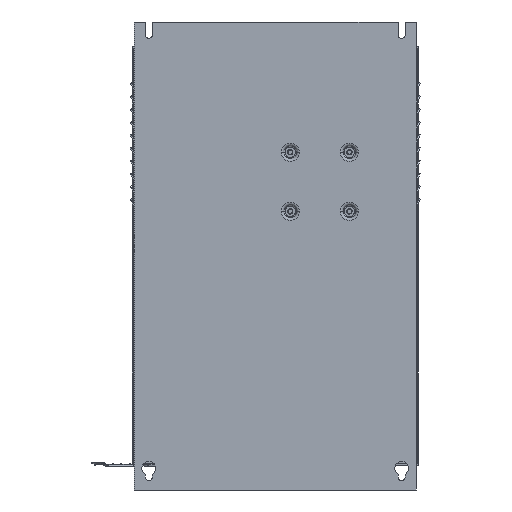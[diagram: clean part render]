
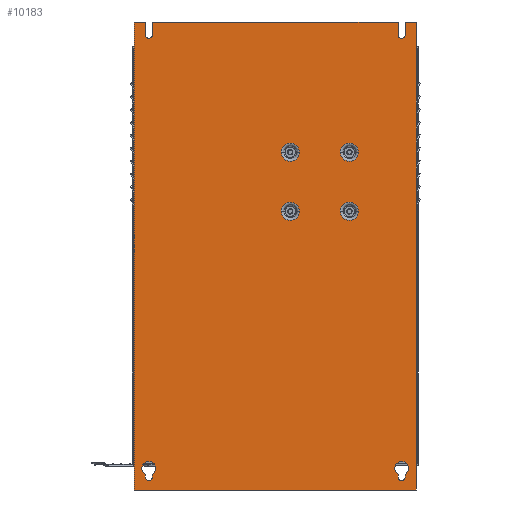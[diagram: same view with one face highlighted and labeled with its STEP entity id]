
A CAD part, front view. The second image highlights one B-rep face of the part: STEP entity #10183.
In plain terms, the highlighted planar face has unit normal (0, -1, 0).
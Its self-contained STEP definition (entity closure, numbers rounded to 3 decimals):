
#2=CARTESIAN_POINT('',(41.5,0.,-14.));
#3=DIRECTION('',(0.,1.,0.));
#4=DIRECTION('',(0.,0.,-1.));
#5=AXIS2_PLACEMENT_3D('',#2,#3,#4);
#7=CARTESIAN_POINT('',(41.5,0.,-14.));
#8=DIRECTION('',(0.,1.,0.));
#9=DIRECTION('',(0.,0.,1.));
#10=AXIS2_PLACEMENT_3D('',#7,#8,#9);
#12=CARTESIAN_POINT('',(96.5,0.,-14.));
#13=DIRECTION('',(0.,1.,0.));
#14=DIRECTION('',(0.,0.,-1.));
#15=AXIS2_PLACEMENT_3D('',#12,#13,#14);
#17=CARTESIAN_POINT('',(96.5,0.,-14.));
#18=DIRECTION('',(0.,1.,0.));
#19=DIRECTION('',(0.,0.,1.));
#20=AXIS2_PLACEMENT_3D('',#17,#18,#19);
#22=CARTESIAN_POINT('',(41.5,0.,-69.));
#23=DIRECTION('',(0.,1.,0.));
#24=DIRECTION('',(0.,0.,-1.));
#25=AXIS2_PLACEMENT_3D('',#22,#23,#24);
#27=CARTESIAN_POINT('',(41.5,0.,-69.));
#28=DIRECTION('',(0.,1.,0.));
#29=DIRECTION('',(0.,0.,1.));
#30=AXIS2_PLACEMENT_3D('',#27,#28,#29);
#32=CARTESIAN_POINT('',(96.5,0.,-69.));
#33=DIRECTION('',(0.,1.,0.));
#34=DIRECTION('',(0.,0.,-1.));
#35=AXIS2_PLACEMENT_3D('',#32,#33,#34);
#37=CARTESIAN_POINT('',(96.5,0.,-69.));
#38=DIRECTION('',(0.,1.,0.));
#39=DIRECTION('',(0.,0.,1.));
#40=AXIS2_PLACEMENT_3D('',#37,#38,#39);
#42=CARTESIAN_POINT('',(-205.5,0.,117.5));
#43=DIRECTION('',(0.,1.,0.));
#44=DIRECTION('',(0.,0.,-1.));
#45=AXIS2_PLACEMENT_3D('',#42,#43,#44);
#47=DIRECTION('',(-1.,0.,0.));
#48=VECTOR('',#47,2.371);
#49=CARTESIAN_POINT('',(-203.129,0.,114.25));
#50=LINE('',#49,#48);
#51=CARTESIAN_POINT('',(-197.5,0.,117.5));
#52=DIRECTION('',(0.,1.,0.));
#53=DIRECTION('',(-0.866,0.,0.5));
#54=AXIS2_PLACEMENT_3D('',#51,#52,#53);
#56=DIRECTION('',(1.,0.,0.));
#57=VECTOR('',#56,2.371);
#58=CARTESIAN_POINT('',(-205.5,0.,120.75));
#59=LINE('',#58,#57);
#60=DIRECTION('',(-1.,0.,0.));
#61=VECTOR('',#60,12.);
#62=CARTESIAN_POINT('',(217.5,0.,114.25));
#63=LINE('',#62,#61);
#64=DIRECTION('',(0.,0.,-1.));
#65=VECTOR('',#64,228.5);
#66=CARTESIAN_POINT('',(217.5,0.,114.25));
#67=LINE('',#66,#65);
#68=DIRECTION('',(-1.,0.,0.));
#69=VECTOR('',#68,12.);
#70=CARTESIAN_POINT('',(217.5,0.,-114.25));
#71=LINE('',#70,#69);
#72=CARTESIAN_POINT('',(205.5,0.,-117.5));
#73=DIRECTION('',(0.,1.,0.));
#74=DIRECTION('',(0.,0.,-1.));
#75=AXIS2_PLACEMENT_3D('',#72,#73,#74);
#77=DIRECTION('',(-1.,0.,0.));
#78=VECTOR('',#77,12.);
#79=CARTESIAN_POINT('',(217.5,0.,-120.75));
#80=LINE('',#79,#78);
#81=DIRECTION('',(0.,0.,-1.));
#82=VECTOR('',#81,10.25);
#83=CARTESIAN_POINT('',(217.5,0.,-120.75));
#84=LINE('',#83,#82);
#85=DIRECTION('',(-1.,0.,0.));
#86=VECTOR('',#85,435.);
#87=CARTESIAN_POINT('',(217.5,0.,-131.));
#88=LINE('',#87,#86);
#89=DIRECTION('',(0.,0.,1.));
#90=VECTOR('',#89,262.);
#91=CARTESIAN_POINT('',(-217.5,0.,-131.));
#92=LINE('',#91,#90);
#93=DIRECTION('',(1.,0.,0.));
#94=VECTOR('',#93,435.);
#95=CARTESIAN_POINT('',(-217.5,0.,131.));
#96=LINE('',#95,#94);
#97=DIRECTION('',(0.,0.,-1.));
#98=VECTOR('',#97,10.25);
#99=CARTESIAN_POINT('',(217.5,0.,131.));
#100=LINE('',#99,#98);
#101=DIRECTION('',(-1.,0.,0.));
#102=VECTOR('',#101,12.);
#103=CARTESIAN_POINT('',(217.5,0.,120.75));
#104=LINE('',#103,#102);
#105=CARTESIAN_POINT('',(205.5,0.,117.5));
#106=DIRECTION('',(0.,1.,0.));
#107=DIRECTION('',(0.,0.,-1.));
#108=AXIS2_PLACEMENT_3D('',#105,#106,#107);
#110=DIRECTION('',(1.,0.,0.));
#111=VECTOR('',#110,2.371);
#112=CARTESIAN_POINT('',(-205.5,0.,-114.25));
#113=LINE('',#112,#111);
#114=CARTESIAN_POINT('',(-205.5,0.,-117.5));
#115=DIRECTION('',(0.,1.,0.));
#116=DIRECTION('',(0.,0.,-1.));
#117=AXIS2_PLACEMENT_3D('',#114,#115,#116);
#119=DIRECTION('',(-1.,0.,0.));
#120=VECTOR('',#119,2.371);
#121=CARTESIAN_POINT('',(-203.129,0.,-120.75));
#122=LINE('',#121,#120);
#123=CARTESIAN_POINT('',(-197.5,0.,-117.5));
#124=DIRECTION('',(0.,1.,0.));
#125=DIRECTION('',(-0.866,0.,0.5));
#126=AXIS2_PLACEMENT_3D('',#123,#124,#125);
#7756=CARTESIAN_POINT('',(-217.5,0.,-131.));
#7757=CARTESIAN_POINT('',(-217.5,0.,131.));
#7758=VERTEX_POINT('',#7756);
#7759=VERTEX_POINT('',#7757);
#7760=CARTESIAN_POINT('',(217.5,0.,131.));
#7761=VERTEX_POINT('',#7760);
#7762=CARTESIAN_POINT('',(217.5,0.,-131.));
#7763=VERTEX_POINT('',#7762);
#8052=CARTESIAN_POINT('',(41.5,0.,-22.4));
#8053=CARTESIAN_POINT('',(41.5,0.,-5.6));
#8054=VERTEX_POINT('',#8052);
#8055=VERTEX_POINT('',#8053);
#8068=CARTESIAN_POINT('',(96.5,0.,-22.4));
#8069=CARTESIAN_POINT('',(96.5,0.,-5.6));
#8070=VERTEX_POINT('',#8068);
#8071=VERTEX_POINT('',#8069);
#8084=CARTESIAN_POINT('',(41.5,0.,-77.4));
#8085=CARTESIAN_POINT('',(41.5,0.,-60.6));
#8086=VERTEX_POINT('',#8084);
#8087=VERTEX_POINT('',#8085);
#8100=CARTESIAN_POINT('',(96.5,0.,-77.4));
#8101=CARTESIAN_POINT('',(96.5,0.,-60.6));
#8102=VERTEX_POINT('',#8100);
#8103=VERTEX_POINT('',#8101);
#8484=CARTESIAN_POINT('',(-205.5,0.,114.25));
#8485=CARTESIAN_POINT('',(-205.5,0.,120.75));
#8486=VERTEX_POINT('',#8484);
#8487=VERTEX_POINT('',#8485);
#8488=CARTESIAN_POINT('',(-203.129,0.,120.75));
#8489=VERTEX_POINT('',#8488);
#8490=CARTESIAN_POINT('',(-203.129,0.,114.25));
#8491=VERTEX_POINT('',#8490);
#8492=CARTESIAN_POINT('',(217.5,0.,114.25));
#8493=CARTESIAN_POINT('',(205.5,0.,114.25));
#8494=VERTEX_POINT('',#8492);
#8495=VERTEX_POINT('',#8493);
#8496=CARTESIAN_POINT('',(205.5,0.,120.75));
#8497=VERTEX_POINT('',#8496);
#8498=CARTESIAN_POINT('',(217.5,0.,120.75));
#8499=VERTEX_POINT('',#8498);
#8500=CARTESIAN_POINT('',(-205.5,0.,-114.25));
#8501=CARTESIAN_POINT('',(-203.129,0.,-114.25));
#8502=VERTEX_POINT('',#8500);
#8503=VERTEX_POINT('',#8501);
#8504=CARTESIAN_POINT('',(-203.129,0.,-120.75));
#8505=VERTEX_POINT('',#8504);
#8506=CARTESIAN_POINT('',(-205.5,0.,-120.75));
#8507=VERTEX_POINT('',#8506);
#8508=CARTESIAN_POINT('',(205.5,0.,-120.75));
#8509=CARTESIAN_POINT('',(205.5,0.,-114.25));
#8510=VERTEX_POINT('',#8508);
#8511=VERTEX_POINT('',#8509);
#8512=CARTESIAN_POINT('',(217.5,0.,-114.25));
#8513=VERTEX_POINT('',#8512);
#8514=CARTESIAN_POINT('',(217.5,0.,-120.75));
#8515=VERTEX_POINT('',#8514);
#10108=CARTESIAN_POINT('',(0.,0.,0.));
#10109=DIRECTION('',(0.,1.,0.));
#10110=DIRECTION('',(1.,0.,0.));
#10111=AXIS2_PLACEMENT_3D('',#10108,#10109,#10110);
#10112=PLANE('',#10111);
#10114=ORIENTED_EDGE('',*,*,#10113,.F.);
#10116=ORIENTED_EDGE('',*,*,#10115,.T.);
#10118=ORIENTED_EDGE('',*,*,#10117,.T.);
#10120=ORIENTED_EDGE('',*,*,#10119,.F.);
#10122=ORIENTED_EDGE('',*,*,#10121,.F.);
#10124=ORIENTED_EDGE('',*,*,#10123,.T.);
#10126=ORIENTED_EDGE('',*,*,#10125,.T.);
#10128=ORIENTED_EDGE('',*,*,#10127,.T.);
#10130=ORIENTED_EDGE('',*,*,#10129,.T.);
#10132=ORIENTED_EDGE('',*,*,#10131,.T.);
#10134=ORIENTED_EDGE('',*,*,#10133,.T.);
#10136=ORIENTED_EDGE('',*,*,#10135,.F.);
#10137=EDGE_LOOP('',(#10114,#10116,#10118,#10120,#10122,#10124,#10126,#10128,
#10130,#10132,#10134,#10136));
#10138=FACE_OUTER_BOUND('',#10137,.F.);
#10140=ORIENTED_EDGE('',*,*,#10139,.F.);
#10142=ORIENTED_EDGE('',*,*,#10141,.F.);
#10143=EDGE_LOOP('',(#10140,#10142));
#10144=FACE_BOUND('',#10143,.F.);
#10146=ORIENTED_EDGE('',*,*,#10145,.F.);
#10148=ORIENTED_EDGE('',*,*,#10147,.F.);
#10149=EDGE_LOOP('',(#10146,#10148));
#10150=FACE_BOUND('',#10149,.F.);
#10152=ORIENTED_EDGE('',*,*,#10151,.F.);
#10154=ORIENTED_EDGE('',*,*,#10153,.F.);
#10155=EDGE_LOOP('',(#10152,#10154));
#10156=FACE_BOUND('',#10155,.F.);
#10158=ORIENTED_EDGE('',*,*,#10157,.F.);
#10160=ORIENTED_EDGE('',*,*,#10159,.F.);
#10162=ORIENTED_EDGE('',*,*,#10161,.F.);
#10164=ORIENTED_EDGE('',*,*,#10163,.F.);
#10165=EDGE_LOOP('',(#10158,#10160,#10162,#10164));
#10166=FACE_BOUND('',#10165,.F.);
#10168=ORIENTED_EDGE('',*,*,#10167,.F.);
#10170=ORIENTED_EDGE('',*,*,#10169,.F.);
#10171=EDGE_LOOP('',(#10168,#10170));
#10172=FACE_BOUND('',#10171,.F.);
#10174=ORIENTED_EDGE('',*,*,#10173,.F.);
#10176=ORIENTED_EDGE('',*,*,#10175,.F.);
#10178=ORIENTED_EDGE('',*,*,#10177,.F.);
#10180=ORIENTED_EDGE('',*,*,#10179,.F.);
#10181=EDGE_LOOP('',(#10174,#10176,#10178,#10180));
#10182=FACE_BOUND('',#10181,.F.);
#10183=ADVANCED_FACE('',(#10138,#10144,#10150,#10156,#10166,#10172,#10182),
#10112,.F.);
#6=CIRCLE('',#5,8.4);
#11=CIRCLE('',#10,8.4);
#16=CIRCLE('',#15,8.4);
#21=CIRCLE('',#20,8.4);
#26=CIRCLE('',#25,8.4);
#31=CIRCLE('',#30,8.4);
#36=CIRCLE('',#35,8.4);
#41=CIRCLE('',#40,8.4);
#46=CIRCLE('',#45,3.25);
#55=CIRCLE('',#54,6.5);
#76=CIRCLE('',#75,3.25);
#109=CIRCLE('',#108,3.25);
#118=CIRCLE('',#117,3.25);
#127=CIRCLE('',#126,6.5);
#10113=EDGE_CURVE('',#8494,#8495,#63,.T.);
#10115=EDGE_CURVE('',#8494,#8513,#67,.T.);
#10117=EDGE_CURVE('',#8513,#8511,#71,.T.);
#10119=EDGE_CURVE('',#8510,#8511,#76,.T.);
#10121=EDGE_CURVE('',#8515,#8510,#80,.T.);
#10123=EDGE_CURVE('',#8515,#7763,#84,.T.);
#10125=EDGE_CURVE('',#7763,#7758,#88,.T.);
#10127=EDGE_CURVE('',#7758,#7759,#92,.T.);
#10129=EDGE_CURVE('',#7759,#7761,#96,.T.);
#10131=EDGE_CURVE('',#7761,#8499,#100,.T.);
#10133=EDGE_CURVE('',#8499,#8497,#104,.T.);
#10135=EDGE_CURVE('',#8495,#8497,#109,.T.);
#10139=EDGE_CURVE('',#8070,#8071,#16,.T.);
#10141=EDGE_CURVE('',#8071,#8070,#21,.T.);
#10145=EDGE_CURVE('',#8086,#8087,#26,.T.);
#10147=EDGE_CURVE('',#8087,#8086,#31,.T.);
#10151=EDGE_CURVE('',#8102,#8103,#36,.T.);
#10153=EDGE_CURVE('',#8103,#8102,#41,.T.);
#10157=EDGE_CURVE('',#8486,#8487,#46,.T.);
#10159=EDGE_CURVE('',#8491,#8486,#50,.T.);
#10161=EDGE_CURVE('',#8489,#8491,#55,.T.);
#10163=EDGE_CURVE('',#8487,#8489,#59,.T.);
#10167=EDGE_CURVE('',#8054,#8055,#6,.T.);
#10169=EDGE_CURVE('',#8055,#8054,#11,.T.);
#10173=EDGE_CURVE('',#8502,#8503,#113,.T.);
#10175=EDGE_CURVE('',#8507,#8502,#118,.T.);
#10177=EDGE_CURVE('',#8505,#8507,#122,.T.);
#10179=EDGE_CURVE('',#8503,#8505,#127,.T.);
